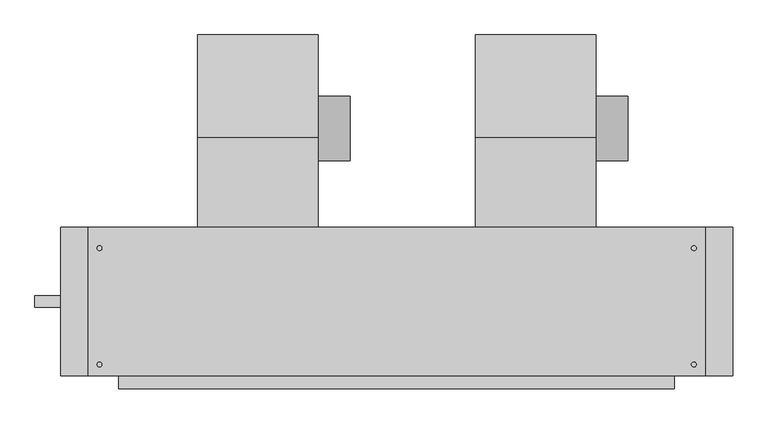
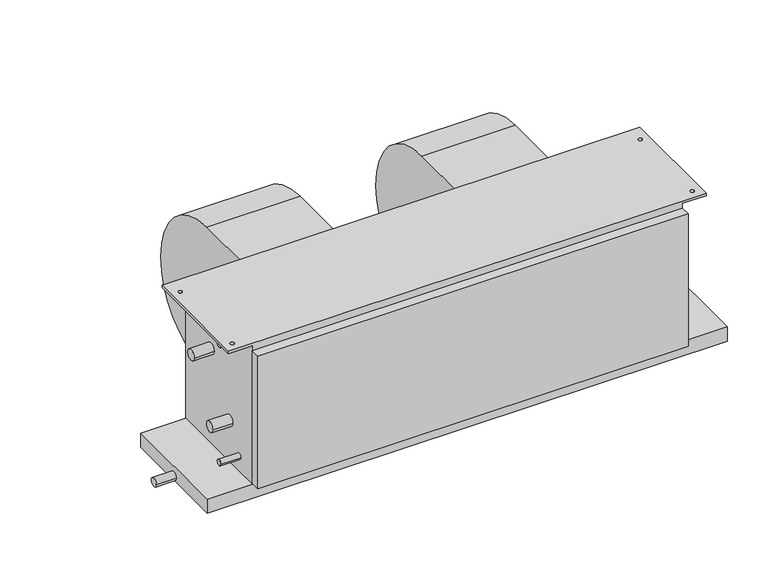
"""IFC4 building model written with IfcOpenShell, lengths in millimetres: proxy geometry, Concealed_High_Capacity_Horizontal_Fan_Coil_Unit_-_42DAA_-_CARRIER_-_4-Pipe_LH_2022 : Size 18 - 277v/60Hz/1Ph - 6/2 Coil."""

from ifc_helpers import new_model, si_unit, point, frame, frame_2d, origin, place, context, project, spatial, polyline, circle_curve, trimmed, segment, composite_curve, outline, extrude, source, transform, mapped, element, save
from ifc_brep_helpers import plane_surface, cylinder_surface, revolved_surface, advanced_brep


def mechanical_equipment_5fc22377(model_context):
    return source(origin(), model_context, "Body", "SolidModel", [
        extrude(outline(composite_curve([segment(trimmed(circle_curve(frame_2d((117.8757598, -213.2397468)), 63.5), [point((181.3757598, -213.2397468))], [point((54.3757598, -213.2397468))], False, "CARTESIAN"), True, "CONTINUOUS"), segment(trimmed(circle_curve(frame_2d((117.8757598, -213.2397468)), 63.5), [point((54.3757598, -213.2397468))], [point((181.3757598, -213.2397468))], False, "CARTESIAN"), True, "CONTINUOUS")], self_intersect=False)), frame((124.587, 0.0, 0.0), z_axis=(1.0, 0.0, 0.0), x_axis=(0.0, 1.0, 0.0)), (0.0, 0.0, 1.0), 63.5),
        advanced_brep(
        [(-111.887, 301.3905957, -228.379602), (-111.887, 120.4976, -409.99664), (-111.887, -35.0266, -283.45638), (-111.887, -76.2, -283.45638), (-111.887, -76.2, -25.4), (-111.887, 98.8830093, -25.4), (124.587, 301.3905957, -228.379602), (124.587, 98.8830093, -25.4), (124.587, -76.2, -25.4), (124.587, -76.2, -283.45638), (124.587, -35.0266, -283.45638), (124.587, 120.497599, -409.9957839)],
        [
            (0, 1, circle_curve(frame((-111.887, 120.31726, -228.92258), z_axis=(-1.0, 0.0, 0.0), x_axis=(0.0, -1.0, 0.0)), 181.0741498)),
            (1, 2, circle_curve(frame((-111.887, 120.31726, -251.37364), z_axis=(-1.0, 0.0, 0.0), x_axis=(0.0, -1.0, 0.0)), 158.6222464)),
            (2, 3),
            (3, 4),
            (4, 5),
            (5, 0, circle_curve(frame((-111.887, 97.8662, -228.92258), z_axis=(-1.0, 0.0, 0.0), x_axis=(0.0, -1.0, 0.0)), 203.52512)),
            (6, 7, circle_curve(frame((124.587, 97.8662, -228.92258), z_axis=(1.0, 0.0, 0.0), x_axis=(0.0, -1.0, 0.0)), 203.52512)),
            (7, 8),
            (8, 9),
            (9, 10),
            (10, 11, circle_curve(frame((124.587, 120.31726, -251.37364), z_axis=(1.0, 0.0, 0.0), x_axis=(0.0, -1.0, 0.0)), 158.6222464)),
            (11, 6, circle_curve(frame((124.587, 120.31726, -228.92258), z_axis=(1.0, 0.0, 0.0), x_axis=(0.0, -1.0, 0.0)), 181.0741498)),
            (0, 6),
            (11, 1),
            (10, 2),
            (9, 3),
            (8, 4),
            (7, 5),
        ],
        [
            plane_surface(frame((-111.887, -60.7568898, -228.92258), z_axis=(-1.0, 0.0, 0.0), x_axis=(0.0, 0.0, 1.0))),
            plane_surface(frame((124.587, -60.7568898, -228.92258), z_axis=(1.0, 0.0, 0.0), x_axis=(0.0, 0.0, -1.0))),
            cylinder_surface(frame((124.587, 120.31726, -228.92258), z_axis=(-1.0, 0.0, 0.0), x_axis=(0.0, -1.0, 0.0)), 181.0741498),
            cylinder_surface(frame((124.587, 120.31726, -251.37364), z_axis=(-1.0, 0.0, 0.0), x_axis=(0.0, -1.0, 0.0)), 158.6222464),
            plane_surface(frame((-111.887, -35.0266, -283.45638), z_axis=(0.0, 0.0, -1.0), x_axis=(1.0, 0.0, 0.0))),
            plane_surface(frame((-111.887, -76.2, -283.45638), z_axis=(0.0, -1.0, 0.0), x_axis=(1.0, 0.0, 0.0))),
            plane_surface(frame((-111.887, -76.2, -25.4), z_axis=(0.0, 0.0, 1.0), x_axis=(1.0, 0.0, 0.0))),
            cylinder_surface(frame((124.587, 97.8662, -228.92258), z_axis=(-1.0, 0.0, 0.0), x_axis=(0.0, -1.0, 0.0)), 203.52512),
        ],
        [
            (0, [[1, 2, 3, 4, 5, 6]]),
            (1, [[7, 8, 9, 10, 11, 12]]),
            (2, [[-1, 13, -12, 14]]),
            (3, [[-2, -14, -11, 15]]),
            (4, [[-3, -15, -10, 16]]),
            (5, [[-4, -16, -9, 17]]),
            (6, [[-5, -17, -8, 18]]),
            (7, [[-6, -18, -7, -13]]),
        ],
    ),
        extrude(outline(composite_curve([segment(trimmed(circle_curve(frame_2d((117.8757598, -213.2397468)), 63.5), [point((181.3757598, -213.2397468))], [point((54.3757598, -213.2397468))], False, "CARTESIAN"), True, "CONTINUOUS"), segment(trimmed(circle_curve(frame_2d((117.8757598, -213.2397468)), 63.5), [point((54.3757598, -213.2397468))], [point((181.3757598, -213.2397468))], False, "CARTESIAN"), True, "CONTINUOUS")], self_intersect=False)), frame((670.687, 0.0, 0.0), z_axis=(1.0, 0.0, 0.0), x_axis=(0.0, 1.0, 0.0)), (0.0, 0.0, 1.0), 63.5),
        advanced_brep(
        [(434.213, 301.3905957, -228.379602), (434.213, 120.4976, -409.99664), (434.213, -35.0266, -283.45638), (434.213, -76.2, -283.45638), (434.213, -76.2, -25.4), (434.213, 98.8830093, -25.4), (670.687, 301.3905957, -228.379602), (670.687, 98.8830093, -25.4), (670.687, -76.2, -25.4), (670.687, -76.2, -283.45638), (670.687, -35.0266, -283.45638), (670.687, 120.497599, -409.9957839)],
        [
            (0, 1, circle_curve(frame((434.213, 120.31726, -228.92258), z_axis=(-1.0, 0.0, 0.0), x_axis=(0.0, -1.0, 0.0)), 181.0741498)),
            (1, 2, circle_curve(frame((434.213, 120.31726, -251.37364), z_axis=(-1.0, 0.0, 0.0), x_axis=(0.0, -1.0, 0.0)), 158.6222464)),
            (2, 3),
            (3, 4),
            (4, 5),
            (5, 0, circle_curve(frame((434.213, 97.8662, -228.92258), z_axis=(-1.0, 0.0, 0.0), x_axis=(0.0, -1.0, 0.0)), 203.52512)),
            (6, 7, circle_curve(frame((670.687, 97.8662, -228.92258), z_axis=(1.0, 0.0, 0.0), x_axis=(0.0, -1.0, 0.0)), 203.52512)),
            (7, 8),
            (8, 9),
            (9, 10),
            (10, 11, circle_curve(frame((670.687, 120.31726, -251.37364), z_axis=(1.0, 0.0, 0.0), x_axis=(0.0, -1.0, 0.0)), 158.6222464)),
            (11, 6, circle_curve(frame((670.687, 120.31726, -228.92258), z_axis=(1.0, 0.0, 0.0), x_axis=(0.0, -1.0, 0.0)), 181.0741498)),
            (0, 6),
            (11, 1),
            (10, 2),
            (9, 3),
            (8, 4),
            (7, 5),
        ],
        [
            plane_surface(frame((434.213, -60.7568898, -228.92258), z_axis=(-1.0, 0.0, 0.0), x_axis=(0.0, 0.0, 1.0))),
            plane_surface(frame((670.687, -60.7568898, -228.92258), z_axis=(1.0, 0.0, 0.0), x_axis=(0.0, 0.0, -1.0))),
            cylinder_surface(frame((670.687, 120.31726, -228.92258), z_axis=(-1.0, 0.0, 0.0), x_axis=(0.0, -1.0, 0.0)), 181.0741498),
            cylinder_surface(frame((670.687, 120.31726, -251.37364), z_axis=(-1.0, 0.0, 0.0), x_axis=(0.0, -1.0, 0.0)), 158.6222464),
            plane_surface(frame((434.213, -35.0266, -283.45638), z_axis=(0.0, 0.0, -1.0), x_axis=(1.0, 0.0, 0.0))),
            plane_surface(frame((434.213, -76.2, -283.45638), z_axis=(0.0, -1.0, 0.0), x_axis=(1.0, 0.0, 0.0))),
            plane_surface(frame((434.213, -76.2, -25.4), z_axis=(0.0, 0.0, 1.0), x_axis=(1.0, 0.0, 0.0))),
            cylinder_surface(frame((670.687, 97.8662, -228.92258), z_axis=(-1.0, 0.0, 0.0), x_axis=(0.0, -1.0, 0.0)), 203.52512),
        ],
        [
            (0, [[1, 2, 3, 4, 5, 6]]),
            (1, [[7, 8, 9, 10, 11, 12]]),
            (2, [[-1, 13, -12, 14]]),
            (3, [[-2, -14, -11, 15]]),
            (4, [[-3, -15, -10, 16]]),
            (5, [[-4, -16, -9, 17]]),
            (6, [[-5, -17, -8, 18]]),
            (7, [[-6, -18, -7, -13]]),
        ],
    ),
        extrude(outline(polyline([(939.8, -76.2), (939.8, -368.3), (-381.0, -368.3), (-381.0, -76.2), (939.8, -76.2)])), frame((0.0, 0.0, -415.925), z_axis=(0.0, 0.0, 1.0), x_axis=(1.0, 0.0, 0.0)), (0.0, 0.0, 1.0), 38.1),
        extrude(outline(polyline([(825.5, -393.7), (-266.7, -393.7), (-266.7, -368.3), (825.5, -368.3), (825.5, -393.7)])), frame((0.0, 0.0, -374.65), z_axis=(0.0, 0.0, 1.0), x_axis=(1.0, 0.0, 0.0)), (0.0, 0.0, 1.0), 355.6),
        extrude(outline(composite_curve([segment(trimmed(circle_curve(frame_2d((-222.25, -403.225)), 11.1125), [point((-233.3625, -403.225))], [point((-211.1375, -403.225))], False, "CARTESIAN"), True, "CONTINUOUS"), segment(trimmed(circle_curve(frame_2d((-222.25, -403.225)), 11.1125), [point((-211.1375, -403.225))], [point((-233.3625, -403.225))], False, "CARTESIAN"), True, "CONTINUOUS")], self_intersect=False)), frame((-431.8, 0.0, 0.0), z_axis=(1.0, 0.0, 0.0), x_axis=(0.0, 1.0, 0.0)), (0.0, 0.0, 1.0), 50.8),
        extrude(outline(composite_curve([segment(trimmed(circle_curve(frame_2d((-187.325, -122.2375)), 14.2875), [point((-201.6125, -122.2375))], [point((-173.0375, -122.2375))], False, "CARTESIAN"), True, "CONTINUOUS"), segment(trimmed(circle_curve(frame_2d((-187.325, -122.2375)), 14.2875), [point((-173.0375, -122.2375))], [point((-201.6125, -122.2375))], False, "CARTESIAN"), True, "CONTINUOUS")], self_intersect=False)), frame((-317.5, 0.0, 0.0), z_axis=(1.0, 0.0, 0.0), x_axis=(0.0, 1.0, 0.0)), (0.0, 0.0, 1.0), 50.8),
        extrude(outline(composite_curve([segment(trimmed(circle_curve(frame_2d((-269.875, -265.1125)), 14.2875), [point((-284.1625, -265.1125))], [point((-255.5875, -265.1125))], False, "CARTESIAN"), True, "CONTINUOUS"), segment(trimmed(circle_curve(frame_2d((-269.875, -265.1125)), 14.2875), [point((-255.5875, -265.1125))], [point((-284.1625, -265.1125))], False, "CARTESIAN"), True, "CONTINUOUS")], self_intersect=False)), frame((-317.5, 0.0, 0.0), z_axis=(1.0, 0.0, 0.0), x_axis=(0.0, 1.0, 0.0)), (0.0, 0.0, 1.0), 50.8),
        extrude(outline(composite_curve([segment(trimmed(circle_curve(frame_2d((-311.15, -19.05)), 7.9375), [point((-319.0875, -19.05))], [point((-303.2125, -19.05))], False, "CARTESIAN"), True, "CONTINUOUS"), segment(trimmed(circle_curve(frame_2d((-311.15, -19.05)), 7.9375), [point((-303.2125, -19.05))], [point((-319.0875, -19.05))], False, "CARTESIAN"), True, "CONTINUOUS")], self_intersect=False)), frame((-317.5, 0.0, 0.0), z_axis=(1.0, 0.0, 0.0), x_axis=(0.0, 1.0, 0.0)), (0.0, 0.0, 1.0), 50.8),
        extrude(outline(composite_curve([segment(trimmed(circle_curve(frame_2d((-311.15, -336.55)), 7.9375), [point((-319.0875, -336.55))], [point((-303.2125, -336.55))], False, "CARTESIAN"), True, "CONTINUOUS"), segment(trimmed(circle_curve(frame_2d((-311.15, -336.55)), 7.9375), [point((-303.2125, -336.55))], [point((-319.0875, -336.55))], False, "CARTESIAN"), True, "CONTINUOUS")], self_intersect=False)), frame((-317.5, 0.0, 0.0), z_axis=(1.0, 0.0, 0.0), x_axis=(0.0, 1.0, 0.0)), (0.0, 0.0, 1.0), 50.8),
        advanced_brep(
        [(825.5, -76.2, -377.825), (825.5, -368.3, -377.825), (-266.7, -368.3, -377.825), (-266.7, -76.2, -377.825), (-266.7, -368.3, -6.35), (-266.7, -76.2, -6.35), (825.5, -76.2, -6.35), (825.5, -368.3, -6.35), (-327.025, -76.2, 0.0), (-327.025, -368.3, 0.0), (885.825, -368.3, 0.0), (885.825, -76.2, 0.0), (-300.0375, -117.475, 0.0), (-309.5625, -117.475, 0.0), (-300.0375, -346.075, 0.0), (-309.5625, -346.075, 0.0), (868.3625, -117.475, 0.0), (858.8375, -117.475, 0.0), (868.3625, -346.075, 0.0), (858.8375, -346.075, 0.0), (-327.025, -76.2, -6.35), (-327.025, -368.3, -6.35), (-309.5625, -117.475, -6.35), (-300.0375, -117.475, -6.35), (-309.5625, -346.075, -6.35), (-300.0375, -346.075, -6.35), (885.825, -76.2, -6.35), (885.825, -368.3, -6.35), (858.8375, -117.475, -6.35), (868.3625, -117.475, -6.35), (858.8375, -346.075, -6.35), (868.3625, -346.075, -6.35)],
        [
            (0, 1),
            (1, 2),
            (2, 3),
            (3, 0),
            (2, 4),
            (4, 5),
            (5, 3),
            (0, 6),
            (6, 7),
            (7, 1),
            (8, 9),
            (9, 10),
            (10, 11),
            (11, 8),
            (12, 13, circle_curve(frame((-304.8, -117.475, 0.0), z_axis=(0.0, 0.0, -1.0), x_axis=(1.0, 0.0, 0.0)), 4.7625)),
            (13, 12, circle_curve(frame((-304.8, -117.475, 0.0), z_axis=(0.0, 0.0, -1.0), x_axis=(1.0, 0.0, 0.0)), 4.7625)),
            (14, 15, circle_curve(frame((-304.8, -346.075, 0.0), z_axis=(0.0, 0.0, -1.0), x_axis=(1.0, 0.0, 0.0)), 4.7625)),
            (15, 14, circle_curve(frame((-304.8, -346.075, 0.0), z_axis=(0.0, 0.0, -1.0), x_axis=(1.0, 0.0, 0.0)), 4.7625)),
            (16, 17, circle_curve(frame((863.6, -117.475, 0.0), z_axis=(0.0, 0.0, -1.0), x_axis=(1.0, 0.0, 0.0)), 4.7625)),
            (17, 16, circle_curve(frame((863.6, -117.475, 0.0), z_axis=(0.0, 0.0, -1.0), x_axis=(1.0, 0.0, 0.0)), 4.7625)),
            (18, 19, circle_curve(frame((863.6, -346.075, 0.0), z_axis=(0.0, 0.0, -1.0), x_axis=(1.0, 0.0, 0.0)), 4.7625)),
            (19, 18, circle_curve(frame((863.6, -346.075, 0.0), z_axis=(0.0, 0.0, -1.0), x_axis=(1.0, 0.0, 0.0)), 4.7625)),
            (20, 5),
            (4, 21),
            (21, 20),
            (22, 23, circle_curve(frame((-304.8, -117.475, -6.35), z_axis=(0.0, 0.0, 1.0), x_axis=(1.0, 0.0, 0.0)), 4.7625)),
            (23, 22, circle_curve(frame((-304.8, -117.475, -6.35), z_axis=(0.0, 0.0, 1.0), x_axis=(1.0, 0.0, 0.0)), 4.7625)),
            (24, 25, circle_curve(frame((-304.8, -346.075, -6.35), z_axis=(0.0, 0.0, 1.0), x_axis=(1.0, 0.0, 0.0)), 4.7625)),
            (25, 24, circle_curve(frame((-304.8, -346.075, -6.35), z_axis=(0.0, 0.0, 1.0), x_axis=(1.0, 0.0, 0.0)), 4.7625)),
            (26, 27),
            (27, 7),
            (6, 26),
            (28, 29, circle_curve(frame((863.6, -117.475, -6.35), z_axis=(0.0, 0.0, 1.0), x_axis=(1.0, 0.0, 0.0)), 4.7625)),
            (29, 28, circle_curve(frame((863.6, -117.475, -6.35), z_axis=(0.0, 0.0, 1.0), x_axis=(1.0, 0.0, 0.0)), 4.7625)),
            (30, 31, circle_curve(frame((863.6, -346.075, -6.35), z_axis=(0.0, 0.0, 1.0), x_axis=(1.0, 0.0, 0.0)), 4.7625)),
            (31, 30, circle_curve(frame((863.6, -346.075, -6.35), z_axis=(0.0, 0.0, 1.0), x_axis=(1.0, 0.0, 0.0)), 4.7625)),
            (8, 20),
            (21, 9),
            (27, 10),
            (11, 26),
            (12, 23),
            (22, 13),
            (14, 25),
            (24, 15),
            (16, 29),
            (28, 17),
            (18, 31),
            (30, 19),
        ],
        [
            plane_surface(frame((-266.7, -76.2, -377.825), z_axis=(0.0, 0.0, -1.0), x_axis=(1.0, 0.0, 0.0))),
            plane_surface(frame((-266.7, -76.2, 0.0), z_axis=(-1.0, 0.0, 0.0), x_axis=(0.0, 0.0, -1.0))),
            plane_surface(frame((825.5, -368.3, 0.0), z_axis=(1.0, 0.0, 0.0), x_axis=(0.0, 0.0, -1.0))),
            plane_surface(frame((-327.025, -76.2, 0.0), z_axis=(0.0, 0.0, 1.0), x_axis=(0.0, -1.0, 0.0))),
            plane_surface(frame((-327.025, -76.2, -6.35), z_axis=(0.0, 0.0, -1.0), x_axis=(0.0, 1.0, 0.0))),
            plane_surface(frame((-327.025, -76.2, 0.0), z_axis=(-1.0, 0.0, 0.0), x_axis=(0.0, 0.0, -1.0))),
            plane_surface(frame((-327.025, -368.3, 0.0), z_axis=(0.0, -1.0, 0.0), x_axis=(0.0, 0.0, -1.0))),
            plane_surface(frame((-266.7, -76.2, 0.0), z_axis=(0.0, 1.0, 0.0), x_axis=(0.0, 0.0, -1.0))),
            plane_surface(frame((885.825, -368.3, 0.0), z_axis=(1.0, 0.0, 0.0), x_axis=(0.0, 0.0, -1.0))),
            revolved_surface(polyline([(-300.0375, -117.475, 0.0), (-300.0375, -117.475, -6.35)]), (-304.8, -117.475, -6.35), (0.0, 0.0, 1.0)),
            revolved_surface(polyline([(-300.0375, -346.075, 0.0), (-300.0375, -346.075, -6.35)]), (-304.8, -346.075, 0.0), (0.0, 0.0, 1.0)),
            revolved_surface(polyline([(868.3625000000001, -117.475, 0.0), (868.3625000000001, -117.475, -6.35)]), (863.6, -117.475, 0.0), (0.0, 0.0, 1.0)),
            revolved_surface(polyline([(868.3625000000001, -346.075, 0.0), (868.3625000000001, -346.075, -6.35)]), (863.6, -346.075, 0.0), (0.0, 0.0, 1.0)),
        ],
        [
            (0, [[1, 2, 3, 4]]),
            (1, [[-3, 5, 6, 7]]),
            (2, [[-1, 8, 9, 10]]),
            (3, [[11, 12, 13, 14], [15, 16], [17, 18], [19, 20], [21, 22]]),
            (4, [[23, -6, 24, 25], [26, 27], [28, 29]]),
            (4, [[30, 31, -9, 32], [33, 34], [35, 36]]),
            (5, [[-11, 37, -25, 38]]),
            (6, [[-12, -38, -24, -5, -2, -10, -31, 39]]),
            (7, [[-14, 40, -32, -8, -4, -7, -23, -37]]),
            (8, [[-13, -39, -30, -40]]),
            (9, [[41, -26, 42, -15]]),
            (9, [[-41, -16, -42, -27]]),
            (10, [[43, -28, 44, -17]]),
            (10, [[-43, -18, -44, -29]]),
            (11, [[45, -33, 46, -19]]),
            (11, [[-45, -20, -46, -34]]),
            (12, [[47, -35, 48, -21]]),
            (12, [[-47, -22, -48, -36]]),
        ],
    ),
    ])


if __name__ == "__main__":
    model = new_model("IFC4")
    model_context = context("Model", 3, world=origin())
    ifc_project = project(units=[si_unit("LENGTHUNIT", "METRE", prefix="MILLI")], contexts=[model_context])
    site = spatial("IfcSite", under=ifc_project)
    building = spatial("IfcBuilding", under=site)
    placement = place(None, origin())
    mechanical_equipment_shape = mechanical_equipment_5fc22377(model_context)
    element("IfcBuildingElementProxy", 1, Name="Concealed_High_Capacity_Horizontal_Fan_Coil_Unit_-_42DAA_-_CARRIER_-_4-Pipe_LH_2022 : Size 18 - 277v/60Hz/1Ph - 6/2 Coil", ObjectType="Concealed_High_Capacity_Horizontal_Fan_Coil_Unit_-_42DAA_-_CARRIER_-_4-Pipe_LH_2022 : Size 18 - 277v/60Hz/1Ph - 6/2 Coil", at=placement, inside=building, context=model_context, shape_type="MappedRepresentation", body=[
        mapped(mechanical_equipment_shape, transform((0.0, 0.0, 0.0), x_axis=(1.0, 0.0, 0.0), y_axis=(0.0, 1.0, 0.0), z_axis=(0.0, 0.0, 1.0))),
    ])
    save(model, "model.ifc")
